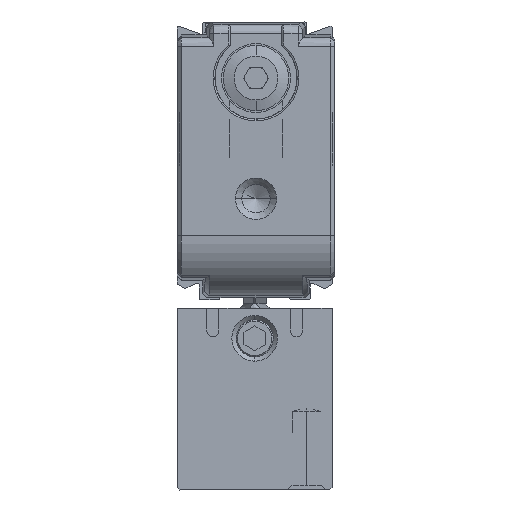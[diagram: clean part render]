
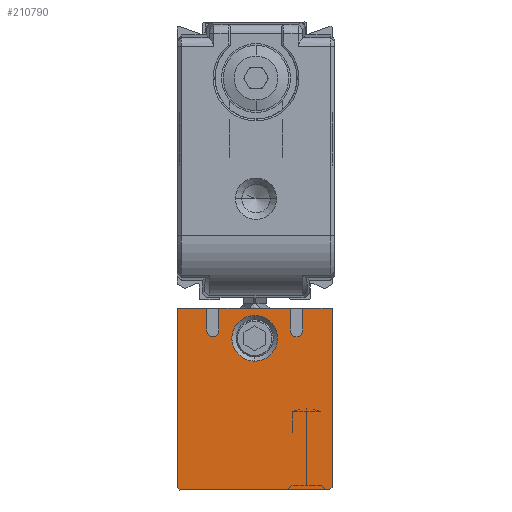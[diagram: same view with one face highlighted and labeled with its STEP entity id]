
A CAD part, left-side view. The second image highlights one B-rep face of the part: STEP entity #210790.
In plain terms, the highlighted planar face has unit normal (-1, 0, 0) as drawn and (0, 0, -1) by its records, which use the part's own axes.
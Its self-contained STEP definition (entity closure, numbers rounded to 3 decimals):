
#189940=CARTESIAN_POINT('',(-14.872,0.,-92.));
#189950=DIRECTION('',(0.,-1.,0.));
#189960=VECTOR('',#189950,1.);
#189970=LINE('',#189940,#189960);
#189980=CARTESIAN_POINT('',(-14.872,-2.3,-92.));
#189990=VERTEX_POINT('',#189980);
#190000=CARTESIAN_POINT('',(-14.872,-19.7,-92.));
#190010=VERTEX_POINT('',#190000);
#190020=EDGE_CURVE('',#189990,#190010,#189970,.T.);
#190620=CARTESIAN_POINT('',(0.,-5.45,-92.));
#190630=DIRECTION('',(-1.,0.,0.));
#190640=VECTOR('',#190630,1.);
#190650=LINE('',#190620,#190640);
#190660=CARTESIAN_POINT('',(6.228,-5.45,-92.));
#190670=VERTEX_POINT('',#190660);
#190680=CARTESIAN_POINT('',(3.568,-5.45,-92.));
#190690=VERTEX_POINT('',#190680);
#190700=EDGE_CURVE('',#190670,#190690,#190650,.T.);
#195930=CARTESIAN_POINT('',(0.078,-11.,-92.));
#195940=VERTEX_POINT('',#195930);
#195970=CARTESIAN_POINT('',(2.728,-11.,-92.));
#195980=DIRECTION('',(0.,0.,-1.));
#195990=DIRECTION('',(-1.,0.,0.));
#196000=AXIS2_PLACEMENT_3D('',#195970,#195980,#195990);
#196010=CIRCLE('',#196000,2.65);
#196020=CARTESIAN_POINT('',(5.378,-11.,-92.));
#196030=VERTEX_POINT('',#196020);
#196040=EDGE_CURVE('',#196030,#195940,#196010,.T.);
#202620=CARTESIAN_POINT('',(6.228,-2.,-92.));
#202630=VERTEX_POINT('',#202620);
#202660=CARTESIAN_POINT('',(6.228,0.,-92.));
#202670=DIRECTION('',(0.,-1.,0.));
#202680=VECTOR('',#202670,1.);
#202690=LINE('',#202660,#202680);
#202700=EDGE_CURVE('',#202630,#190670,#202690,.T.);
#202850=CARTESIAN_POINT('',(6.228,-6.85,-92.));
#202860=VERTEX_POINT('',#202850);
#202890=CARTESIAN_POINT('',(6.228,-15.15,-92.));
#202900=VERTEX_POINT('',#202890);
#202910=EDGE_CURVE('',#202860,#202900,#202690,.T.);
#203130=CARTESIAN_POINT('',(6.228,-16.55,-92.));
#203140=VERTEX_POINT('',#203130);
#203170=CARTESIAN_POINT('',(6.228,-20.,-92.));
#203180=VERTEX_POINT('',#203170);
#203190=EDGE_CURVE('',#203140,#203180,#202690,.T.);
#207740=CARTESIAN_POINT('',(3.568,-6.15,-92.));
#207750=DIRECTION('',(0.,0.,-1.));
#207760=DIRECTION('',(0.,1.,0.));
#207770=AXIS2_PLACEMENT_3D('',#207740,#207750,#207760);
#207780=CIRCLE('',#207770,0.7);
#207790=CARTESIAN_POINT('',(3.568,-6.85,-92.));
#207800=VERTEX_POINT('',#207790);
#207810=EDGE_CURVE('',#207800,#190690,#207780,.T.);
#208240=CARTESIAN_POINT('',(3.568,-15.85,-92.));
#208250=DIRECTION('',(0.,0.,-1.));
#208260=DIRECTION('',(0.,1.,0.));
#208270=AXIS2_PLACEMENT_3D('',#208240,#208250,#208260);
#208280=CIRCLE('',#208270,0.7);
#208290=CARTESIAN_POINT('',(3.568,-16.55,-92.));
#208300=VERTEX_POINT('',#208290);
#208310=CARTESIAN_POINT('',(3.568,-15.15,-92.));
#208320=VERTEX_POINT('',#208310);
#208330=EDGE_CURVE('',#208300,#208320,#208280,.T.);
#210140=CARTESIAN_POINT('',(-14.772,-2.,-92.));
#210150=DIRECTION('',(0.,0.,-1.));
#210160=DIRECTION('',(1.,0.,0.));
#210170=AXIS2_PLACEMENT_3D('',#210140,#210150,#210160);
#210180=PLANE('',#210170);
#210190=EDGE_CURVE('',#195940,#196030,#196010,.T.);
#210200=ORIENTED_EDGE('',*,*,#210190,.F.);
#210210=ORIENTED_EDGE('',*,*,#196040,.F.);
#210220=EDGE_LOOP('',(#210210,#210200));
#210230=FACE_BOUND('',#210220,.T.);
#210240=CARTESIAN_POINT('',(-12.572,0.,-92.));
#210250=DIRECTION('',(-0.707,-0.707,0.));
#210260=VECTOR('',#210250,1.);
#210270=LINE('',#210240,#210260);
#210280=CARTESIAN_POINT('',(-14.572,-2.,-92.));
#210290=VERTEX_POINT('',#210280);
#210300=EDGE_CURVE('',#210290,#189990,#210270,.T.);
#210310=ORIENTED_EDGE('',*,*,#210300,.F.);
#210320=ORIENTED_EDGE('',*,*,#190020,.F.);
#210330=CARTESIAN_POINT('',(-34.572,0.,-92.));
#210340=DIRECTION('',(0.707,-0.707,0.));
#210350=VECTOR('',#210340,1.);
#210360=LINE('',#210330,#210350);
#210370=CARTESIAN_POINT('',(-14.572,-20.,-92.));
#210380=VERTEX_POINT('',#210370);
#210390=EDGE_CURVE('',#190010,#210380,#210360,.T.);
#210400=ORIENTED_EDGE('',*,*,#210390,.F.);
#210410=CARTESIAN_POINT('',(0.,-20.,-92.));
#210420=DIRECTION('',(-1.,0.,0.));
#210430=VECTOR('',#210420,1.);
#210440=LINE('',#210410,#210430);
#210450=EDGE_CURVE('',#203180,#210380,#210440,.T.);
#210460=ORIENTED_EDGE('',*,*,#210450,.T.);
#210470=ORIENTED_EDGE('',*,*,#203190,.T.);
#210480=CARTESIAN_POINT('',(0.,-16.55,-92.));
#210490=DIRECTION('',(1.,0.,0.));
#210500=VECTOR('',#210490,1.);
#210510=LINE('',#210480,#210500);
#210520=EDGE_CURVE('',#208300,#203140,#210510,.T.);
#210530=ORIENTED_EDGE('',*,*,#210520,.T.);
#210540=ORIENTED_EDGE('',*,*,#208330,.F.);
#210550=CARTESIAN_POINT('',(0.,-15.15,-92.));
#210560=DIRECTION('',(-1.,0.,0.));
#210570=VECTOR('',#210560,1.);
#210580=LINE('',#210550,#210570);
#210590=EDGE_CURVE('',#202900,#208320,#210580,.T.);
#210600=ORIENTED_EDGE('',*,*,#210590,.T.);
#210610=ORIENTED_EDGE('',*,*,#202910,.T.);
#210620=CARTESIAN_POINT('',(0.,-6.85,-92.));
#210630=DIRECTION('',(1.,0.,0.));
#210640=VECTOR('',#210630,1.);
#210650=LINE('',#210620,#210640);
#210660=EDGE_CURVE('',#207800,#202860,#210650,.T.);
#210670=ORIENTED_EDGE('',*,*,#210660,.T.);
#210680=ORIENTED_EDGE('',*,*,#207810,.F.);
#210690=ORIENTED_EDGE('',*,*,#190700,.T.);
#210700=ORIENTED_EDGE('',*,*,#202700,.T.);
#210710=CARTESIAN_POINT('',(0.,-2.,-92.));
#210720=DIRECTION('',(1.,0.,0.));
#210730=VECTOR('',#210720,1.);
#210740=LINE('',#210710,#210730);
#210750=EDGE_CURVE('',#210290,#202630,#210740,.T.);
#210760=ORIENTED_EDGE('',*,*,#210750,.T.);
#210770=EDGE_LOOP('',(#210760,#210700,#210690,#210680,#210670,#210610,
#210600,#210540,#210530,#210470,#210460,#210400,#210320,#210310));
#210780=FACE_OUTER_BOUND('',#210770,.T.);
#210790=ADVANCED_FACE('',(#210230,#210780),#210180,.T.);
